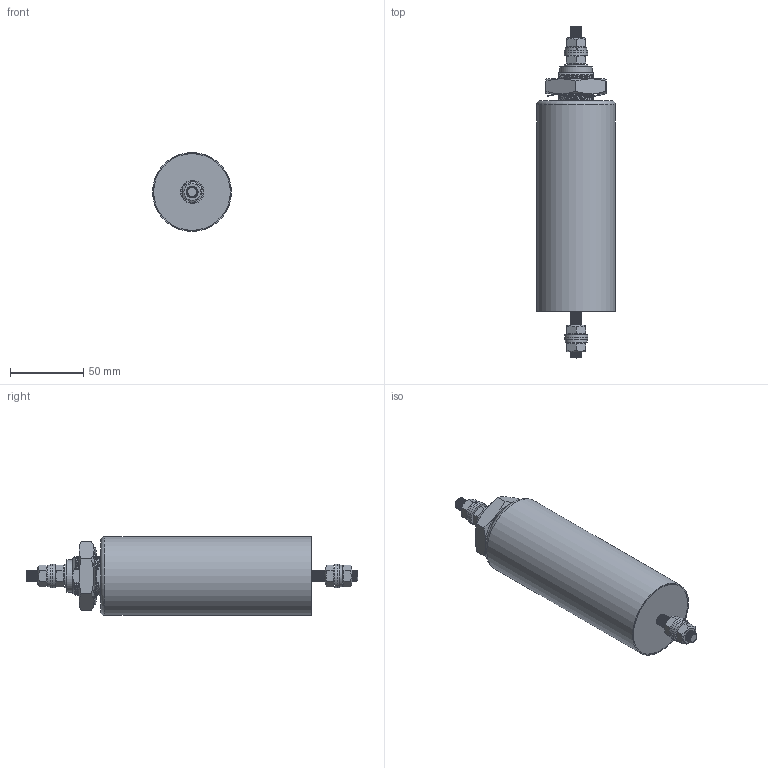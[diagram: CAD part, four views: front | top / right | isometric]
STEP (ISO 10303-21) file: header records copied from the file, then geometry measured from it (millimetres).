
FILE_DESCRIPTION(/* description */ (''),/* implementation_level */ '2;1');
FILE_NAME(/* name */ 'C:\SapWorkDir\Inventor\P01\ConvertTempPath\188034_IPT_000.ipt.stp',/* time_stamp */ '2018-01-24T09:54:48+07:00',/* author */ ('Eakchai.Yodchai'),/* organization */ ('Schaffner Thailand Ltd.'),/* preprocessor_version */ 'ST-DEVELOPER v16.5',/* originating_system */ 'Autodesk Inventor 2017',/* authorisation */ '');
FILE_SCHEMA (('AUTOMOTIVE_DESIGN { 1 0 10303 214 3 1 1 }'));
Length unit declared in the file: millimetre
Products named in the file (1): 801867
Bounding box: 54 x 227 x 54 mm (x, y, z)
Volume: 355930.9 mm3; surface area: 50021.3 mm2
Topology: 1 solids, 2 shells, 266 faces, 743 edges, 479 vertices
Faces by surface type: cylinder 87, plane 82, bspline 60, cone 36, torus 1
Full cylindrical faces by diameter (mm): 8.4 x5, 15 x1, 16 x5, 19.3 x1, 22.3 x1, 27 x1, 30 x1, 52.4 x1, 52.5 x1, 54 x1
Entity records: 17972 total; most frequent: CARTESIAN_POINT 11793, ORIENTED_EDGE 1384, DIRECTION 926, EDGE_CURVE 692, VERTEX_POINT 465, AXIS2_PLACEMENT_3D 366, EDGE_LOOP 335, FACE_OUTER_BOUND 264
